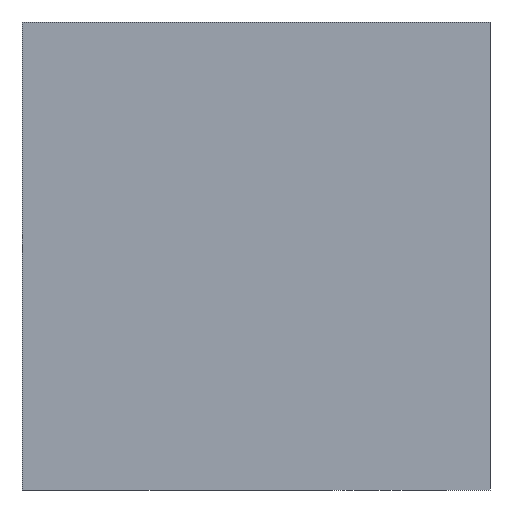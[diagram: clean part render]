
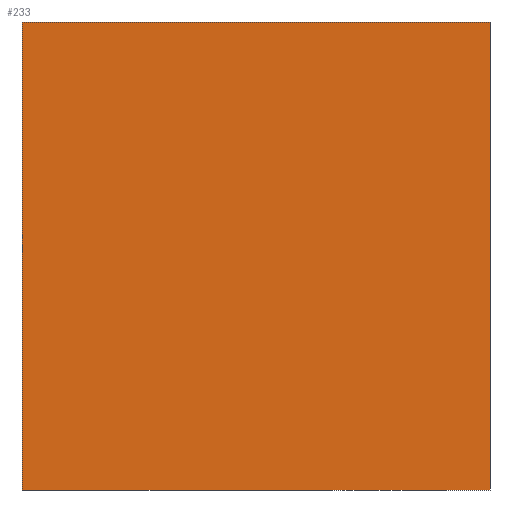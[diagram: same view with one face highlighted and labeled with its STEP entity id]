
A CAD part, left-side view. The second image highlights one B-rep face of the part: STEP entity #233.
In plain terms, the highlighted planar face has unit normal (-1, 0, 0).
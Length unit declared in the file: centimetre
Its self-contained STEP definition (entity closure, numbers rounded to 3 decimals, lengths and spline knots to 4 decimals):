
#12 = EDGE_CURVE ( 'NONE', #452, #652, #328, .T. ) ;
#18 = VERTEX_POINT ( 'NONE', #510 ) ;
#27 = CARTESIAN_POINT ( 'NONE',  ( 0., 1000., 1000. ) ) ;
#118 = LINE ( 'NONE', #759, #693 ) ;
#131 = DIRECTION ( 'NONE',  ( 0., -1., 0. ) ) ;
#155 = FACE_OUTER_BOUND ( 'NONE', #310, .T. ) ;
#223 = LINE ( 'NONE', #409, #538 ) ;
#233 = ADVANCED_FACE ( 'NONE', ( #155 ), #542, .F. ) ;
#310 = EDGE_LOOP ( 'NONE', ( #727, #381, #460, #628 ) ) ;
#321 = VECTOR ( 'NONE', #131, 100. ) ;
#328 = LINE ( 'NONE', #636, #321 ) ;
#350 = DIRECTION ( 'NONE',  ( 1., 0., 0. ) ) ;
#359 = EDGE_CURVE ( 'NONE', #652, #18, #696, .T. ) ;
#360 = EDGE_CURVE ( 'NONE', #721, #18, #118, .T. ) ;
#367 = CARTESIAN_POINT ( 'NONE',  ( 0., 0., 1000. ) ) ;
#380 = CARTESIAN_POINT ( 'NONE',  ( 0., 1000., 0. ) ) ;
#381 = ORIENTED_EDGE ( 'NONE', *, *, #359, .F. ) ;
#409 = CARTESIAN_POINT ( 'NONE',  ( 0., 1000., 1000. ) ) ;
#417 = AXIS2_PLACEMENT_3D ( 'NONE', #27, #350, #592 ) ;
#428 = CARTESIAN_POINT ( 'NONE',  ( 0., 1000., 1000. ) ) ;
#452 = VERTEX_POINT ( 'NONE', #428 ) ;
#460 = ORIENTED_EDGE ( 'NONE', *, *, #12, .F. ) ;
#478 = DIRECTION ( 'NONE',  ( 0., 0., -1. ) ) ;
#480 = VECTOR ( 'NONE', #756, 100. ) ;
#502 = DIRECTION ( 'NONE',  ( 0., -1., 0. ) ) ;
#510 = CARTESIAN_POINT ( 'NONE',  ( 0., 0., 0. ) ) ;
#538 = VECTOR ( 'NONE', #478, 100. ) ;
#542 = PLANE ( 'NONE',  #417 ) ;
#552 = EDGE_CURVE ( 'NONE', #452, #721, #223, .T. ) ;
#592 = DIRECTION ( 'NONE',  ( 0., 0., -1. ) ) ;
#628 = ORIENTED_EDGE ( 'NONE', *, *, #552, .T. ) ;
#636 = CARTESIAN_POINT ( 'NONE',  ( 0., 1000., 1000. ) ) ;
#652 = VERTEX_POINT ( 'NONE', #764 ) ;
#693 = VECTOR ( 'NONE', #502, 100. ) ;
#696 = LINE ( 'NONE', #367, #480 ) ;
#721 = VERTEX_POINT ( 'NONE', #380 ) ;
#727 = ORIENTED_EDGE ( 'NONE', *, *, #360, .T. ) ;
#756 = DIRECTION ( 'NONE',  ( 0., 0., -1. ) ) ;
#759 = CARTESIAN_POINT ( 'NONE',  ( 0., 1000., 0. ) ) ;
#764 = CARTESIAN_POINT ( 'NONE',  ( 0., 0., 1000. ) ) ;
